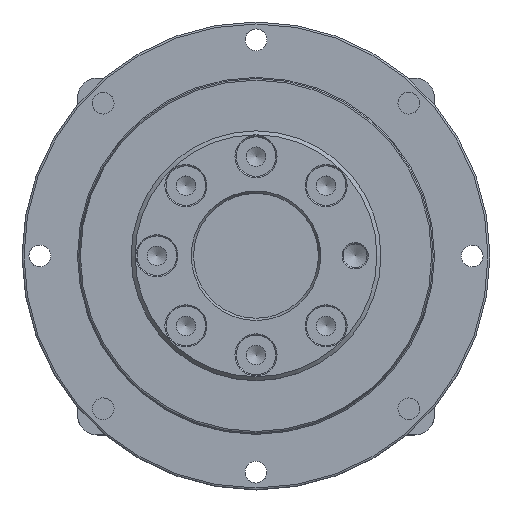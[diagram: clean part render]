
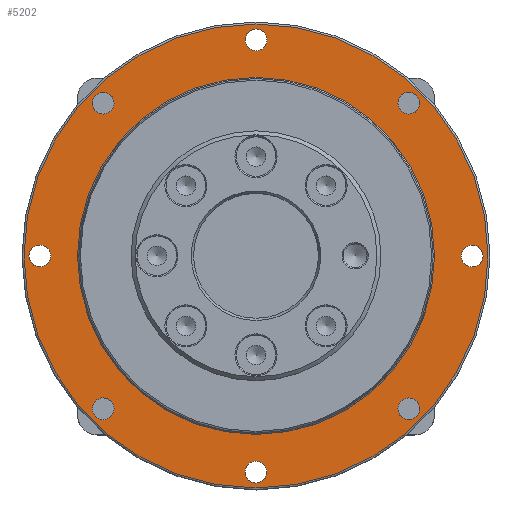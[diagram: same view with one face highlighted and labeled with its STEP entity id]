
A CAD part, top view. The second image highlights one B-rep face of the part: STEP entity #5202.
In plain terms, the highlighted planar face has unit normal (0, 0, 1).
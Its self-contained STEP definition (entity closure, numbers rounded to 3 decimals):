
#2737=CARTESIAN_POINT('',(40.482,36.593,7.));
#2738=VERTEX_POINT('',#2737);
#2739=CARTESIAN_POINT('',(38.537,38.537,7.));
#2740=DIRECTION('',(0.0,0.0,-1.0));
#2741=DIRECTION('',(-0.707,0.707,0.0));
#2742=AXIS2_PLACEMENT_3D('',#2739,#2740,#2741);
#2743=CIRCLE('',#2742,2.75);
#2744=EDGE_CURVE('',#2738,#2738,#2743,.T.);
#2765=CARTESIAN_POINT('',(-36.593,40.482,7.));
#2766=VERTEX_POINT('',#2765);
#2767=CARTESIAN_POINT('',(-38.537,38.537,7.));
#2768=DIRECTION('',(0.0,0.0,-1.0));
#2769=DIRECTION('',(-0.707,-0.707,0.0));
#2770=AXIS2_PLACEMENT_3D('',#2767,#2768,#2769);
#2771=CIRCLE('',#2770,2.75);
#2772=EDGE_CURVE('',#2766,#2766,#2771,.T.);
#2793=CARTESIAN_POINT('',(36.593,-40.482,7.));
#2794=VERTEX_POINT('',#2793);
#2795=CARTESIAN_POINT('',(38.537,-38.537,7.));
#2796=DIRECTION('',(0.0,0.0,-1.0));
#2797=DIRECTION('',(0.707,0.707,0.0));
#2798=AXIS2_PLACEMENT_3D('',#2795,#2796,#2797);
#2799=CIRCLE('',#2798,2.75);
#2800=EDGE_CURVE('',#2794,#2794,#2799,.T.);
#2821=CARTESIAN_POINT('',(54.5,-2.75,7.));
#2822=VERTEX_POINT('',#2821);
#2823=CARTESIAN_POINT('',(54.5,0.,7.));
#2824=DIRECTION('',(0.0,0.0,-1.0));
#2825=DIRECTION('',(0.0,1.0,0.0));
#2826=AXIS2_PLACEMENT_3D('',#2823,#2824,#2825);
#2827=CIRCLE('',#2826,2.75);
#2828=EDGE_CURVE('',#2822,#2822,#2827,.T.);
#2899=CARTESIAN_POINT('',(2.75,54.5,7.));
#2900=VERTEX_POINT('',#2899);
#2901=CARTESIAN_POINT('',(0.0,54.5,7.));
#2902=DIRECTION('',(0.0,0.0,-1.0));
#2903=DIRECTION('',(-1.0,0.0,0.0));
#2904=AXIS2_PLACEMENT_3D('',#2901,#2902,#2903);
#2905=CIRCLE('',#2904,2.75);
#2906=EDGE_CURVE('',#2900,#2900,#2905,.T.);
#2977=CARTESIAN_POINT('',(-2.75,-54.5,7.));
#2978=VERTEX_POINT('',#2977);
#2979=CARTESIAN_POINT('',(0.,-54.5,7.));
#2980=DIRECTION('',(0.0,0.0,-1.0));
#2981=DIRECTION('',(1.0,0.0,0.0));
#2982=AXIS2_PLACEMENT_3D('',#2979,#2980,#2981);
#2983=CIRCLE('',#2982,2.75);
#2984=EDGE_CURVE('',#2978,#2978,#2983,.T.);
#3117=CARTESIAN_POINT('',(-54.5,2.75,7.));
#3118=VERTEX_POINT('',#3117);
#3119=CARTESIAN_POINT('',(-54.5,0.0,7.));
#3120=DIRECTION('',(0.0,0.0,-1.0));
#3121=DIRECTION('',(0.0,-1.0,0.0));
#3122=AXIS2_PLACEMENT_3D('',#3119,#3120,#3121);
#3123=CIRCLE('',#3122,2.75);
#3124=EDGE_CURVE('',#3118,#3118,#3123,.T.);
#5136=CARTESIAN_POINT('',(58.5,0.,7.));
#5137=VERTEX_POINT('',#5136);
#5138=CARTESIAN_POINT('',(0.0,0.0,7.));
#5139=DIRECTION('',(0.0,0.0,-1.0));
#5140=DIRECTION('',(-1.0,0.0,0.0));
#5141=AXIS2_PLACEMENT_3D('',#5138,#5139,#5140);
#5142=CIRCLE('',#5141,58.5);
#5143=EDGE_CURVE('',#5137,#5137,#5142,.T.);
#5151=CARTESIAN_POINT('',(0.0,0.0,7.));
#5152=DIRECTION('',(0.0,0.0,-1.0));
#5153=DIRECTION('',(-1.0,0.0,0.0));
#5154=AXIS2_PLACEMENT_3D('',#5151,#5152,#5153);
#5155=PLANE('',#5154);
#5156=ORIENTED_EDGE('',*,*,#5143,.F.);
#5157=EDGE_LOOP('',(#5156));
#5158=FACE_OUTER_BOUND('',#5157,.T.);
#5159=CARTESIAN_POINT('',(45.0,0.,7.));
#5160=VERTEX_POINT('',#5159);
#5161=CARTESIAN_POINT('',(0.0,0.0,7.));
#5162=DIRECTION('',(0.0,0.0,-1.0));
#5163=DIRECTION('',(-1.0,0.0,0.0));
#5164=AXIS2_PLACEMENT_3D('',#5161,#5162,#5163);
#5165=CIRCLE('',#5164,45.0);
#5166=EDGE_CURVE('',#5160,#5160,#5165,.T.);
#5167=ORIENTED_EDGE('',*,*,#5166,.T.);
#5168=EDGE_LOOP('',(#5167));
#5169=FACE_BOUND('',#5168,.T.);
#5170=ORIENTED_EDGE('',*,*,#2906,.T.);
#5171=EDGE_LOOP('',(#5170));
#5172=FACE_BOUND('',#5171,.T.);
#5173=ORIENTED_EDGE('',*,*,#2772,.T.);
#5174=EDGE_LOOP('',(#5173));
#5175=FACE_BOUND('',#5174,.T.);
#5176=ORIENTED_EDGE('',*,*,#3124,.T.);
#5177=EDGE_LOOP('',(#5176));
#5178=FACE_BOUND('',#5177,.T.);
#5179=CARTESIAN_POINT('',(-40.482,-36.593,7.));
#5180=VERTEX_POINT('',#5179);
#5181=CARTESIAN_POINT('',(-38.537,-38.537,7.));
#5182=DIRECTION('',(0.0,0.0,-1.0));
#5183=DIRECTION('',(0.707,-0.707,0.0));
#5184=AXIS2_PLACEMENT_3D('',#5181,#5182,#5183);
#5185=CIRCLE('',#5184,2.75);
#5186=EDGE_CURVE('',#5180,#5180,#5185,.T.);
#5187=ORIENTED_EDGE('',*,*,#5186,.T.);
#5188=EDGE_LOOP('',(#5187));
#5189=FACE_BOUND('',#5188,.T.);
#5190=ORIENTED_EDGE('',*,*,#2984,.T.);
#5191=EDGE_LOOP('',(#5190));
#5192=FACE_BOUND('',#5191,.T.);
#5193=ORIENTED_EDGE('',*,*,#2800,.T.);
#5194=EDGE_LOOP('',(#5193));
#5195=FACE_BOUND('',#5194,.T.);
#5196=ORIENTED_EDGE('',*,*,#2828,.T.);
#5197=EDGE_LOOP('',(#5196));
#5198=FACE_BOUND('',#5197,.T.);
#5199=ORIENTED_EDGE('',*,*,#2744,.T.);
#5200=EDGE_LOOP('',(#5199));
#5201=FACE_BOUND('',#5200,.T.);
#5202=ADVANCED_FACE('',(#5158,#5169,#5172,#5175,#5178,#5189,#5192,#5195,#5198,#5201),#5155,.F.);
